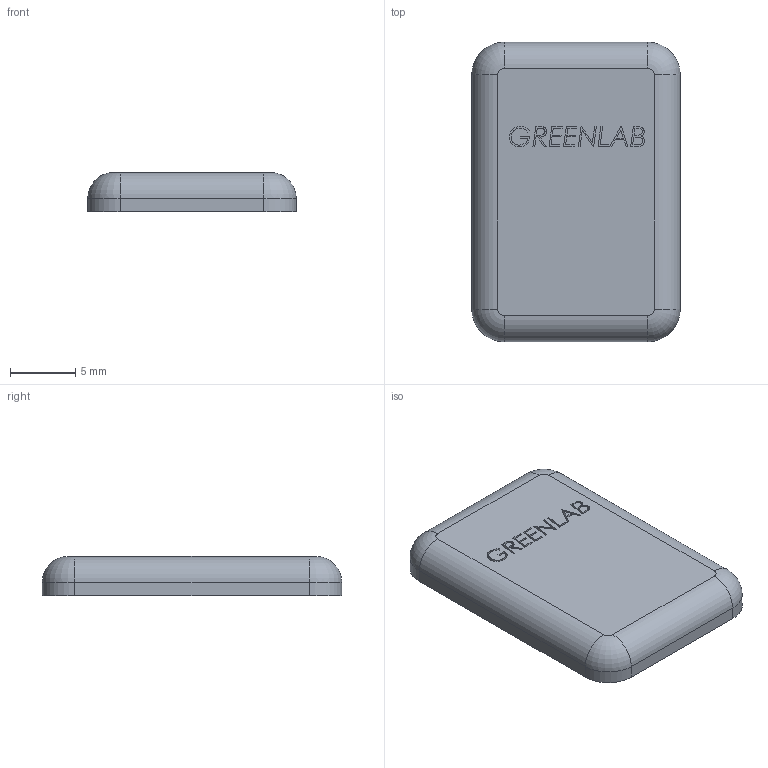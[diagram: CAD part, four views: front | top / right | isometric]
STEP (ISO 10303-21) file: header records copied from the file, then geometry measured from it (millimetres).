
FILE_DESCRIPTION (( 'STEP AP214' ), '1' );
FILE_NAME ('1.1001 Päätysuoja 23x16.STEP', '2025-09-03T08:52:41', ( '' ), ( '' ), 'SwSTEP 2.0', 'SolidWorks 2025', '' );
FILE_SCHEMA (( 'AUTOMOTIVE_DESIGN' ));
Length unit declared in the file: millimetre
Products named in the file (1): 1.1001 Päätysuoja 23x16
Bounding box: 16 x 23 x 3 mm (x, y, z)
Volume: 1025 mm3; surface area: 912.5 mm2
Topology: 1 solids, 1 shells, 128 faces, 334 edges, 220 vertices
Faces by surface type: plane 91, bspline 25, cylinder 8, torus 4
Entity records: 5343 total; most frequent: CARTESIAN_POINT 2324, ORIENTED_EDGE 668, DIRECTION 512, EDGE_CURVE 334, LINE 264, VECTOR 264, VERTEX_POINT 220, EDGE_LOOP 140
